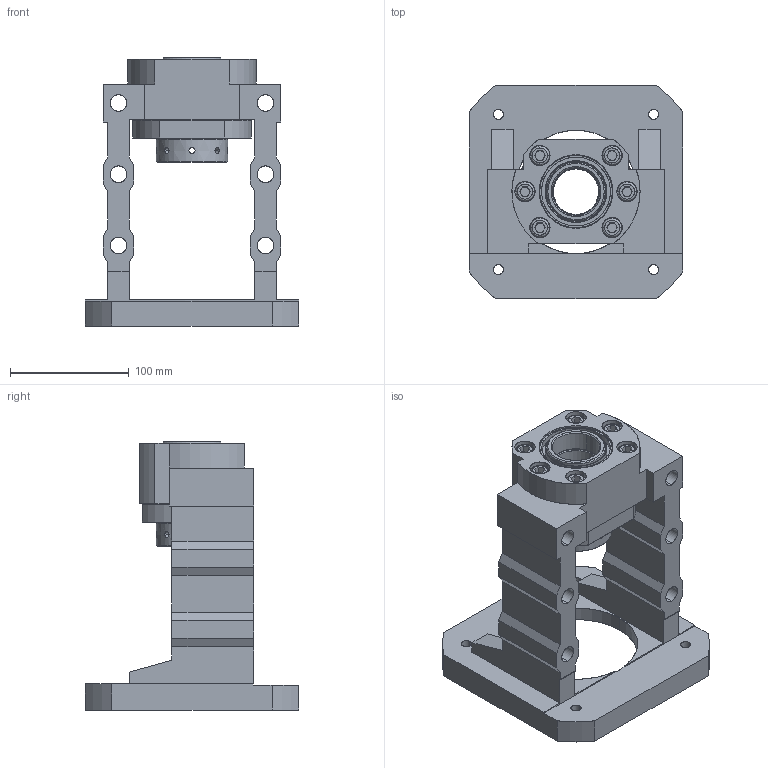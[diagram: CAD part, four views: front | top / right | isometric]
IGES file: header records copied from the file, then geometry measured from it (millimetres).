
Start section: SolidWorks IGES file using analytic representation for surfaces
Bounding box: 180 x 180 x 226 mm (x, y, z)
Surface area: 233223.4 mm2 (no closed solid volume)
Topology: 0 solids, 0 shells, 342 faces, 6264 edges, 6256 vertices
Faces by surface type: revolution 176, bspline 166
